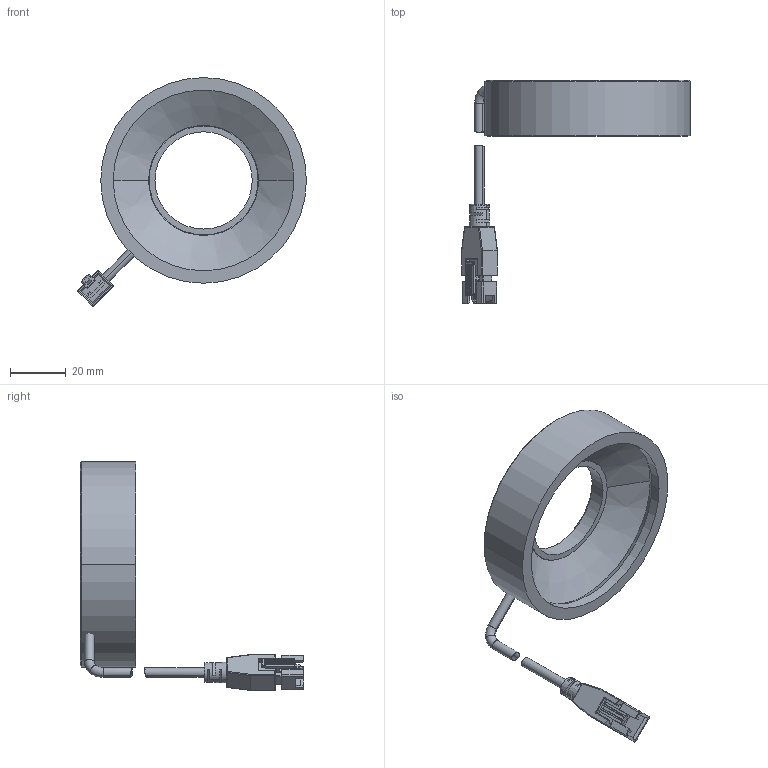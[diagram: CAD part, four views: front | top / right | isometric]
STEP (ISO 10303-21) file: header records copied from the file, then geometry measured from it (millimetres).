
FILE_DESCRIPTION((''),'2;1');
FILE_NAME('MV-LRDS-74-60_ASM','2019-09-19T',('rs-zhongwm'),(''),'PRO/ENGINEER BY PARAMETRIC TECHNOLOGY CORPORATION, 2010100','PRO/ENGINEER BY PARAMETRIC TECHNOLOGY CORPORATION, 2010100','');
FILE_SCHEMA(('CONFIG_CONTROL_DESIGN'));
Length unit declared in the file: millimetre
Products named in the file (5): PRT0001_1; LINE_TOU_1; BODY_12_1; XIANLAN-_ASM_1_ASM; MV-LRDS-74-60_ASM
Assembly tree (4 placements, depth 3):
  MV-LRDS-74-60_ASM
    PRT0001_1
    XIANLAN-_ASM_1_ASM
      LINE_TOU_1
      BODY_12_1
Bounding box: 82.34 x 80.3 x 82.34 mm (x, y, z)
Volume: 44047.3 mm3; surface area: 17033.6 mm2
Topology: 3 solids, 7 shells, 271 faces, 688 edges, 427 vertices
Faces by surface type: plane 136, cylinder 89, cone 18, torus 12, bspline 8, sphere 8
Entity records: 8425 total; most frequent: CARTESIAN_POINT 1784, DIRECTION 1400, ORIENTED_EDGE 1328, EDGE_CURVE 672, AXIS2_PLACEMENT_3D 498, VERTEX_POINT 427, VECTOR 404, LINE 404
